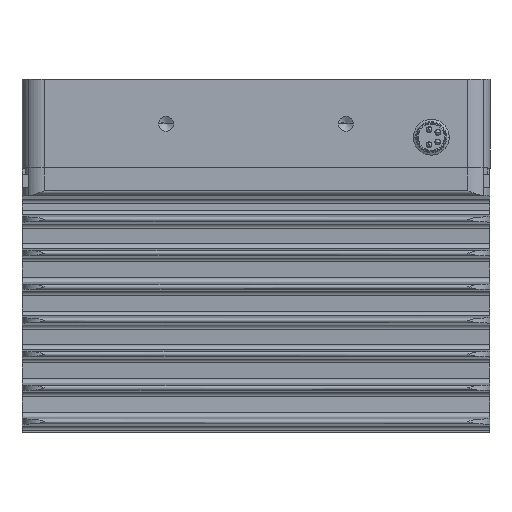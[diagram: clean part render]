
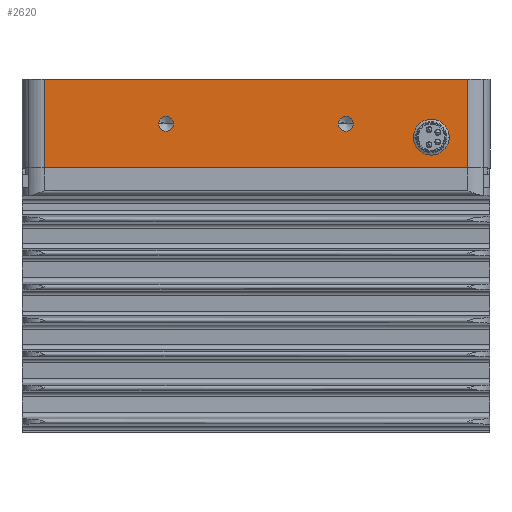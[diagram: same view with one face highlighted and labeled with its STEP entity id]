
A CAD part, front view. The second image highlights one B-rep face of the part: STEP entity #2620.
In plain terms, the highlighted planar face has unit normal (0, -1, 0).
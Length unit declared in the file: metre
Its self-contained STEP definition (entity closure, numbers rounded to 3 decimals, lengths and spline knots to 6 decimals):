
#2620=ADVANCED_FACE('0:18598',(#5427,#5428,#5429,#5430),#5431,.T.);
#5427=FACE_OUTER_BOUND('',#7199,.T.);
#5428=FACE_BOUND('',#7200,.T.);
#5429=FACE_BOUND('',#7201,.T.);
#5430=FACE_BOUND('',#7202,.T.);
#5431=PLANE('',#7203);
#7199=EDGE_LOOP('',(#10992,#10993,#10994,#10995));
#7200=EDGE_LOOP('',(#10996,#10997));
#7201=EDGE_LOOP('',(#10998,#10999));
#7202=EDGE_LOOP('',(#11000,#11001));
#7203=AXIS2_PLACEMENT_3D('',#11002,#11003,#11004);
#10992=ORIENTED_EDGE('',*,*,#13986,.T.);
#10993=ORIENTED_EDGE('',*,*,#14351,.F.);
#10994=ORIENTED_EDGE('',*,*,#14380,.T.);
#10995=ORIENTED_EDGE('',*,*,#13975,.F.);
#10996=ORIENTED_EDGE('',*,*,#13971,.T.);
#10997=ORIENTED_EDGE('',*,*,#13999,.T.);
#10998=ORIENTED_EDGE('',*,*,#14372,.T.);
#10999=ORIENTED_EDGE('',*,*,#13811,.T.);
#11000=ORIENTED_EDGE('',*,*,#14349,.T.);
#11001=ORIENTED_EDGE('',*,*,#13902,.T.);
#11002=CARTESIAN_POINT('',(0.24,-0.0203,0.0));
#11003=DIRECTION('',(0.0,-1.0,0.0));
#11004=DIRECTION('',(0.0,0.0,-1.0));
#13811=EDGE_CURVE('0:21784',#16597,#16601,#16603,.T.);
#13902=EDGE_CURVE('0:21679',#16767,#16770,#16772,.T.);
#13971=EDGE_CURVE('0:20518',#16907,#16905,#16908,.T.);
#13975=EDGE_CURVE('0:20491',#16913,#16915,#16916,.T.);
#13986=EDGE_CURVE('0:19342',#16913,#16929,#16931,.T.);
#13999=EDGE_CURVE('0:20518',#16905,#16907,#16948,.T.);
#14349=EDGE_CURVE('0:21679',#16770,#16767,#17504,.T.);
#14351=EDGE_CURVE('0:21691',#17505,#16929,#17507,.T.);
#14372=EDGE_CURVE('0:21784',#16601,#16597,#17534,.T.);
#14380=EDGE_CURVE('0:21811',#17505,#16915,#17542,.T.);
#16597=VERTEX_POINT('',#17861);
#16601=VERTEX_POINT('',#17866);
#16603=CIRCLE('',#17869,0.00165);
#16767=VERTEX_POINT('',#18079);
#16770=VERTEX_POINT('',#18083);
#16772=CIRCLE('',#18086,0.00165);
#16905=VERTEX_POINT('',#18277);
#16907=VERTEX_POINT('',#18280);
#16908=CIRCLE('',#18281,0.003822);
#16913=VERTEX_POINT('',#18288);
#16915=VERTEX_POINT('',#18290);
#16916=LINE('',#18291,#18292);
#16929=VERTEX_POINT('',#18312);
#16931=LINE('',#18314,#18315);
#16948=CIRCLE('',#18338,0.003822);
#17504=CIRCLE('',#19498,0.00165);
#17505=VERTEX_POINT('',#19499);
#17507=LINE('',#19501,#19502);
#17534=CIRCLE('',#19535,0.00165);
#17542=LINE('',#19549,#19550);
#17861=CARTESIAN_POINT('',(0.29835,-0.0203,0.0099));
#17866=CARTESIAN_POINT('',(0.30165,-0.0203,0.0099));
#17869=AXIS2_PLACEMENT_3D('',#20061,#20062,#20063);
#18079=CARTESIAN_POINT('',(0.25835,-0.0203,0.0099));
#18083=CARTESIAN_POINT('',(0.26165,-0.0203,0.0099));
#18086=AXIS2_PLACEMENT_3D('',#20238,#20239,#20240);
#18277=CARTESIAN_POINT('',(0.315198,-0.0203,0.0069));
#18280=CARTESIAN_POINT('',(0.322842,-0.0203,0.0069));
#18281=AXIS2_PLACEMENT_3D('',#20357,#20358,#20359);
#18288=CARTESIAN_POINT('',(0.2329,-0.0203,0.0001));
#18290=CARTESIAN_POINT('',(0.2329,-0.0203,0.0198));
#18291=CARTESIAN_POINT('',(0.2329,-0.0203,0.0));
#18292=VECTOR('',#20365,1.0);
#18312=CARTESIAN_POINT('',(0.3271,-0.0203,0.0001));
#18314=CARTESIAN_POINT('',(0.168949,-0.0203,0.0001));
#18315=VECTOR('',#20382,1.0);
#18338=AXIS2_PLACEMENT_3D('',#20407,#20408,#20409);
#19498=AXIS2_PLACEMENT_3D('',#20813,#20814,#20815);
#19499=CARTESIAN_POINT('',(0.3271,-0.0203,0.0198));
#19501=CARTESIAN_POINT('',(0.3271,-0.0203,0.0));
#19502=VECTOR('',#20819,1.0);
#19535=AXIS2_PLACEMENT_3D('',#20868,#20869,#20870);
#19549=CARTESIAN_POINT('',(0.2269,-0.0203,0.0198));
#19550=VECTOR('',#20880,1.0);
#20061=CARTESIAN_POINT('',(0.3,-0.0203,0.0099));
#20062=DIRECTION('',(0.0,1.0,-0.0));
#20063=DIRECTION('',(-1.0,0.0,0.));
#20238=CARTESIAN_POINT('',(0.26,-0.0203,0.0099));
#20239=DIRECTION('',(0.0,1.0,-0.0));
#20240=DIRECTION('',(-1.0,0.0,0.));
#20357=CARTESIAN_POINT('',(0.31902,-0.0203,0.0069));
#20358=DIRECTION('',(0.0,1.0,-0.0));
#20359=DIRECTION('',(-1.0,0.0,0.));
#20365=DIRECTION('',(0.0,0.0,1.0));
#20382=DIRECTION('',(1.0,0.0,0.));
#20407=CARTESIAN_POINT('',(0.31902,-0.0203,0.0069));
#20408=DIRECTION('',(0.0,1.0,-0.0));
#20409=DIRECTION('',(-1.0,0.0,0.));
#20813=CARTESIAN_POINT('',(0.26,-0.0203,0.0099));
#20814=DIRECTION('',(0.0,1.0,-0.0));
#20815=DIRECTION('',(-1.0,0.0,0.));
#20819=DIRECTION('',(-0.0,-0.0,-1.0));
#20868=CARTESIAN_POINT('',(0.3,-0.0203,0.0099));
#20869=DIRECTION('',(0.0,1.0,-0.0));
#20870=DIRECTION('',(-1.0,0.0,0.));
#20880=DIRECTION('',(-1.0,-0.0,-0.0));
